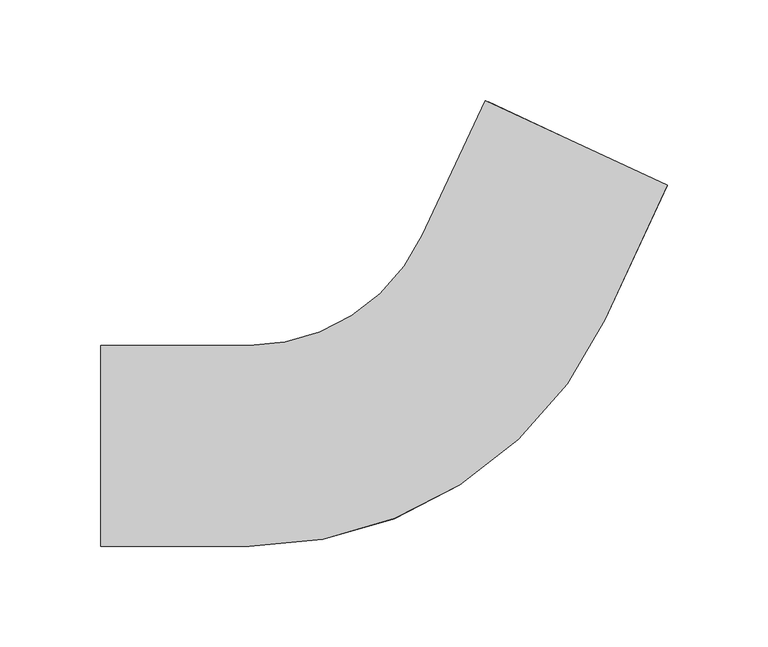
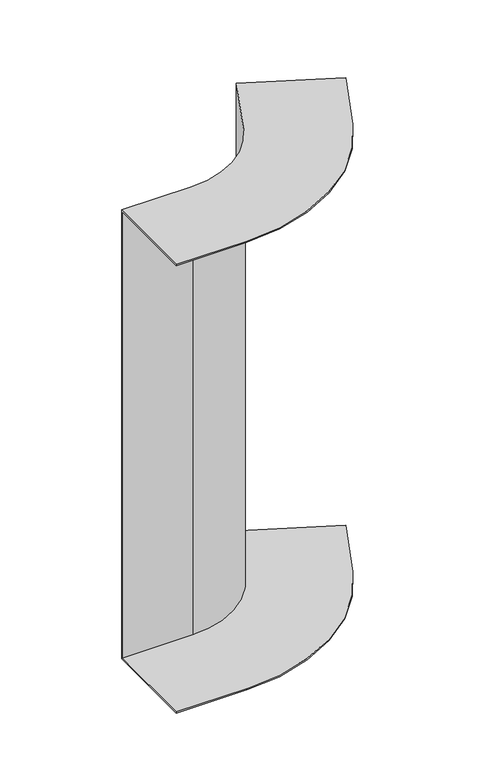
"""IFC4 building model written with IfcOpenShell, lengths in millimetres: cable carrier fitting geometry, BAKS_KK_Vertical bend INTERNAL_LU : LUMNP_H100."""

from ifc_helpers import new_model, si_unit, frame, origin, place, context, project, spatial, polyline, circle_curve, source, transform, mapped, element, save
from ifc_brep_helpers import plane_surface, cylinder_surface, revolved_surface, advanced_brep


def cable_carrier_fitting_3d71c57e(model_context):
    return source(origin(), model_context, "Body", "AdvancedBrep", [
        advanced_brep(
        [(-166.3751878, -50.0, 250.0), (-166.3751878, 50.0, 250.0), (-166.3751878, 50.0, -250.0), (-166.3751878, -50.0, -250.0), (-166.3751878, -50.0, -248.5), (-166.3751878, 48.5, -248.5), (-166.3751878, 48.5, 248.5), (-166.3751878, -50.0, 248.5), (115.628582, 129.6562152, 250.0), (115.628582, 129.6562152, 248.5), (26.357265, 171.284114, 248.5), (26.357265, 171.284114, -248.5), (115.628582, 129.6562152, -248.5), (115.628582, 129.6562152, -250.0), (24.9978033, 171.9180414, -250.0), (24.9978033, 171.9180414, 250.0), (-92.3751878, -50.0, 250.0), (84.3548307, 62.589439, 250.0), (-6.275948, 104.8512651, 250.0), (-92.3751878, 50.0, 250.0), (-92.3751878, 50.0, -250.0), (-6.275948, 104.8512651, -250.0), (84.3548307, 62.589439, -250.0), (-92.3751878, -50.0, -250.0), (-92.3751878, -50.0, -248.5), (84.3548307, 62.589439, -248.5), (-4.9164864, 104.2173377, -248.5), (-92.3751878, 48.5, -248.5), (-92.3751878, 48.5, 248.5), (-4.9164864, 104.2173377, 248.5), (84.3548307, 62.589439, 248.5), (-92.3751878, -50.0, 248.5)],
        [
            (0, 1),
            (1, 2),
            (2, 3),
            (3, 4),
            (4, 5),
            (5, 6),
            (6, 7),
            (7, 0),
            (8, 9),
            (9, 10),
            (10, 11),
            (11, 12),
            (12, 13),
            (13, 14),
            (14, 15),
            (15, 8),
            (0, 16),
            (16, 17, circle_curve(frame((-92.3751878, 145.0, 250.0), z_axis=(0.0, 0.0, 1.0), x_axis=(0.0, -1.0, 0.0)), 195.0)),
            (17, 8),
            (15, 18),
            (18, 19, circle_curve(frame((-92.3751878, 145.0, 250.0), z_axis=(0.0, 0.0, -1.0), x_axis=(0.0, -1.0, 0.0)), 95.0)),
            (19, 1),
            (19, 20),
            (20, 2),
            (20, 21, circle_curve(frame((-92.3751878, 145.0, -250.0), z_axis=(0.0, 0.0, 1.0), x_axis=(0.0, -1.0, 0.0)), 95.0)),
            (21, 14),
            (13, 22),
            (22, 23, circle_curve(frame((-92.3751878, 145.0, -250.0), z_axis=(0.0, 0.0, -1.0), x_axis=(0.0, -1.0, 0.0)), 195.0)),
            (23, 3),
            (23, 24),
            (24, 4),
            (24, 25, circle_curve(frame((-92.3751878, 145.0, -248.5), z_axis=(0.0, 0.0, 1.0), x_axis=(0.0, -1.0, 0.0)), 195.0)),
            (25, 12),
            (11, 26),
            (26, 27, circle_curve(frame((-92.3751878, 145.0, -248.5), z_axis=(0.0, 0.0, -1.0), x_axis=(0.0, -1.0, 0.0)), 96.5)),
            (27, 5),
            (27, 28),
            (28, 6),
            (28, 29, circle_curve(frame((-92.3751878, 145.0, 248.5), z_axis=(0.0, 0.0, 1.0), x_axis=(0.0, -1.0, 0.0)), 96.5)),
            (29, 10),
            (9, 30),
            (30, 31, circle_curve(frame((-92.3751878, 145.0, 248.5), z_axis=(0.0, 0.0, -1.0), x_axis=(0.0, -1.0, 0.0)), 195.0)),
            (31, 7),
            (31, 16),
            (18, 21),
            (22, 25),
            (26, 29),
            (30, 17),
        ],
        [
            plane_surface(frame((-166.3751878, 0.0, 0.0), z_axis=(-1.0, 0.0, 0.0), x_axis=(0.0, 0.0, 1.0))),
            plane_surface(frame((70.3131927, 150.7871283, 0.0), z_axis=(0.42261826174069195, 0.9063077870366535, 0.0), x_axis=(0.0, 0.0, 1.0))),
            plane_surface(frame((-166.3751878, -50.0, 250.0), z_axis=(0.0, 0.0, 1.0), x_axis=(1.0, 0.0, 0.0))),
            plane_surface(frame((-166.3751878, 50.0, 250.0), z_axis=(0.0, 1.0, 0.0), x_axis=(1.0, 0.0, 0.0))),
            plane_surface(frame((-166.3751878, 50.0, -250.0), z_axis=(0.0, 0.0, -1.0), x_axis=(1.0, 0.0, 0.0))),
            plane_surface(frame((-166.3751878, -50.0, -250.0), z_axis=(0.0, -1.0, 0.0), x_axis=(1.0, 0.0, 0.0))),
            plane_surface(frame((-166.3751878, -50.0, -248.5), z_axis=(0.0, 0.0, 1.0), x_axis=(1.0, 0.0, 0.0))),
            plane_surface(frame((-166.3751878, 48.5, -248.5), z_axis=(0.0, -1.0, 0.0), x_axis=(1.0, 0.0, 0.0))),
            plane_surface(frame((-166.3751878, 48.5, 248.5), z_axis=(0.0, 0.0, -1.0), x_axis=(1.0, 0.0, 0.0))),
            plane_surface(frame((-166.3751878, -50.0, 248.5), z_axis=(0.0, -1.0, 0.0), x_axis=(1.0, 0.0, 0.0))),
            revolved_surface(polyline([(-92.3751878, 50.0, 250.0), (-92.3751878, 50.0, -250.0)]), (-92.3751878, 145.0, 0.0), (0.0, 0.0, 1.0)),
            cylinder_surface(frame((-92.3751878, 145.0, 0.0), z_axis=(0.0, 0.0, 1.0), x_axis=(0.0, -1.0, 0.0)), 195.0),
            cylinder_surface(frame((-92.3751878, 145.0, 0.0), z_axis=(0.0, 0.0, 1.0), x_axis=(0.0, -1.0, 0.0)), 96.5),
            plane_surface(frame((-6.275948, 104.8512651, 250.0), z_axis=(-0.9063077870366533, 0.42261826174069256, 0.0), x_axis=(0.42261826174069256, 0.9063077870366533, 0.0))),
            plane_surface(frame((84.3548307, 62.589439, -250.0), z_axis=(0.9063077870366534, -0.42261826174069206, 0.0), x_axis=(0.42261826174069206, 0.9063077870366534, 0.0))),
            plane_surface(frame((-4.9164864, 104.2173377, -248.5), z_axis=(0.906307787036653, -0.4226182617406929, 0.0), x_axis=(0.4226182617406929, 0.906307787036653, 0.0))),
            plane_surface(frame((84.3548307, 62.589439, 248.5), z_axis=(0.9063077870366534, -0.42261826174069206, 0.0), x_axis=(0.42261826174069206, 0.9063077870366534, 0.0))),
        ],
        [
            (0, [[1, 2, 3, 4, 5, 6, 7, 8]]),
            (1, [[9, 10, 11, 12, 13, 14, 15, 16]]),
            (2, [[-1, 17, 18, 19, -16, 20, 21, 22]]),
            (3, [[-2, -22, 23, 24]]),
            (4, [[-3, -24, 25, 26, -14, 27, 28, 29]]),
            (5, [[-4, -29, 30, 31]]),
            (6, [[-5, -31, 32, 33, -12, 34, 35, 36]]),
            (7, [[-6, -36, 37, 38]]),
            (8, [[-7, -38, 39, 40, -10, 41, 42, 43]]),
            (9, [[-8, -43, 44, -17]]),
            (10, [[-25, -23, -21, 45]]),
            (11, [[-32, -30, -28, 46]]),
            (12, [[-39, -37, -35, 47]]),
            (11, [[-18, -44, -42, 48]]),
            (13, [[-45, -20, -15, -26]]),
            (14, [[-46, -27, -13, -33]]),
            (15, [[-47, -34, -11, -40]]),
            (16, [[-48, -41, -9, -19]]),
        ],
    ),
    ])


if __name__ == "__main__":
    model = new_model("IFC4")
    model_context = context("Model", 3, world=origin())
    ifc_project = project(units=[si_unit("LENGTHUNIT", "METRE", prefix="MILLI")], contexts=[model_context])
    site = spatial("IfcSite", under=ifc_project)
    building = spatial("IfcBuilding", under=site)
    placement = place(None, origin())
    cable_carrier_fitting_shape = cable_carrier_fitting_3d71c57e(model_context)
    element("IfcCableCarrierFitting", 1, ObjectType="BAKS_KK_Vertical bend INTERNAL_LU : LUMNP_H100", at=placement, inside=building, context=model_context, shape_type="MappedRepresentation", body=[
        mapped(cable_carrier_fitting_shape, transform((0.0, 0.0, 0.0), x_axis=(1.0, 0.0, 0.0), y_axis=(0.0, 1.0, 0.0), z_axis=(0.0, 0.0, 1.0))),
    ])
    save(model, "model.ifc")
